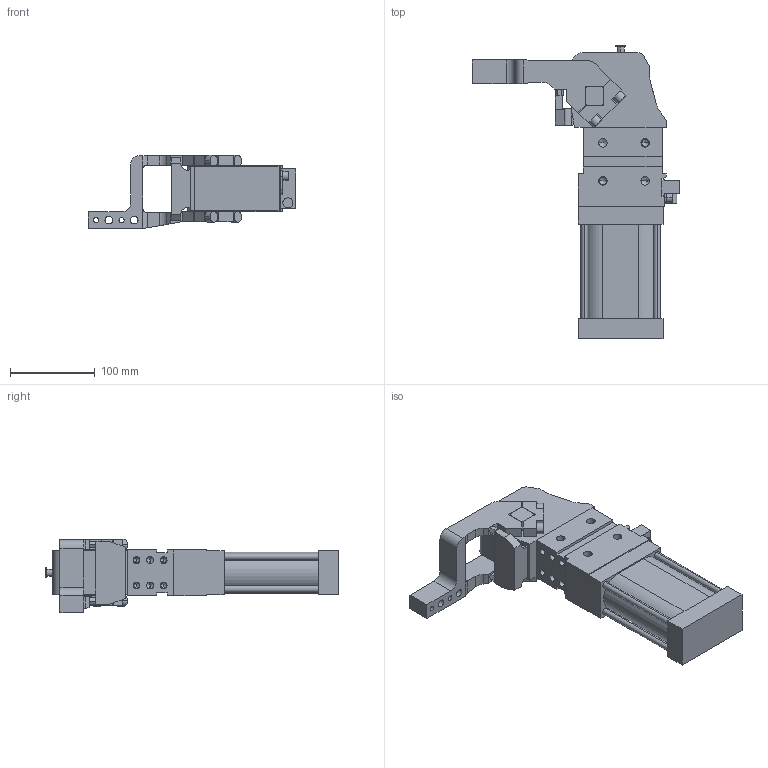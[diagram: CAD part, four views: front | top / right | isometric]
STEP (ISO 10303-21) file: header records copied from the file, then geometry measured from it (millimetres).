
FILE_DESCRIPTION (( 'STEP AP214' ), '1' );
FILE_NAME ('cpl63tv1di1g_135.STEP', '2023-01-26T10:33:39', ( '' ), ( '' ), 'SwSTEP 2.0', 'SolidWorks 2022', '' );
FILE_SCHEMA (( 'AUTOMOTIVE_DESIGN' ));
Length unit declared in the file: millimetre
Products named in the file (4): leva_v1d_cpl63t; blocchetto_VEP_0; meccanica_cpl_63_tassello_esterno; cpl63tv1di1g_135
Assembly tree (3 placements, depth 2):
  cpl63tv1di1g_135
    meccanica_cpl_63_tassello_esterno
    blocchetto_VEP_0
    leva_v1d_cpl63t
Bounding box: 244.5 x 347 x 86.5 mm (x, y, z)
Volume: 1817926.6 mm3; surface area: 195810.6 mm2
Topology: 3 solids, 3 shells, 431 faces, 1136 edges, 705 vertices
Faces by surface type: plane 231, cylinder 150, cone 50
Entity records: 14561 total; most frequent: CARTESIAN_POINT 2343, DIRECTION 2278, ORIENTED_EDGE 2180, EDGE_CURVE 1090, AXIS2_PLACEMENT_3D 766, LINE 746, VECTOR 746, VERTEX_POINT 705
